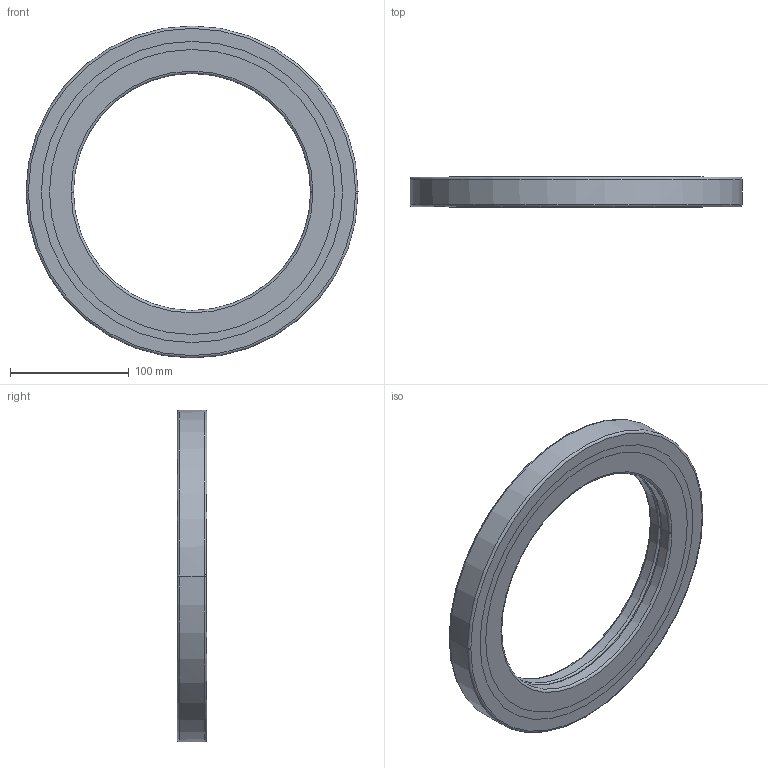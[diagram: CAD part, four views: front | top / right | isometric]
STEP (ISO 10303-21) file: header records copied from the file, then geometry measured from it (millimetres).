
FILE_DESCRIPTION(('no description'),'unknown implementation level');
FILE_NAME('CRBB22025_77.stp',' ',('HIWIN GmbH'),('CADClick - KiM GmbH - www.kimweb.de'),'unknown preprocess','ACIS','unknown authorization');
FILE_SCHEMA(('automotive_design'));
Length unit declared in the file: millimetre
Products named in the file (5): CRBB22025_1; CRBB22025_2; CRBB22025_3; CRBB22025_4; CRBB22025
Bounding box: 280 x 25 x 280 mm (x, y, z)
Volume: 637298.7 mm3; surface area: 177284.9 mm2
Topology: 5 solids, 5 shells, 54 faces, 120 edges, 76 vertices
Faces by surface type: torus 24, cylinder 20, plane 10
Entity records: 3096 total; most frequent: DIRECTION 338, STYLED_ITEM 255, PRESENTATION_STYLE_ASSIGNMENT 255, CARTESIAN_POINT 255, COLOUR_RGB 255, ORIENTED_EDGE 240, AXIS2_PLACEMENT_3D 159, EDGE_CURVE 120
